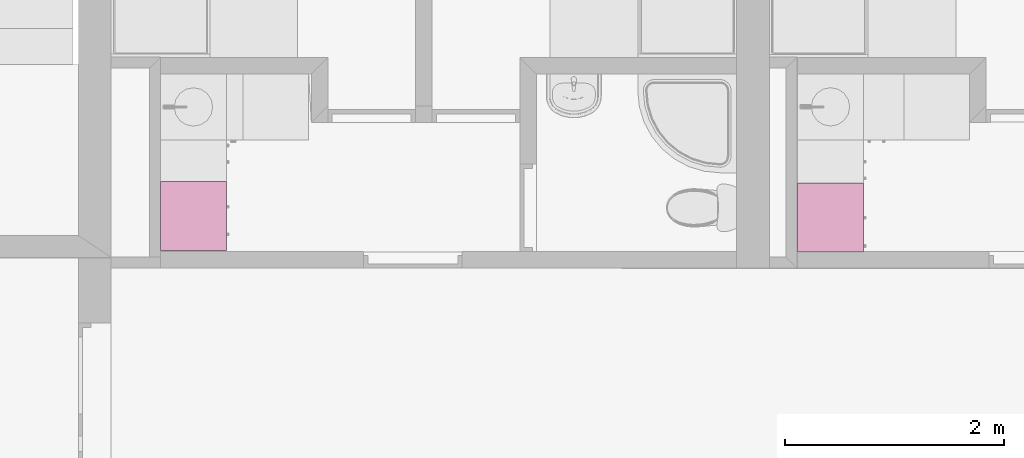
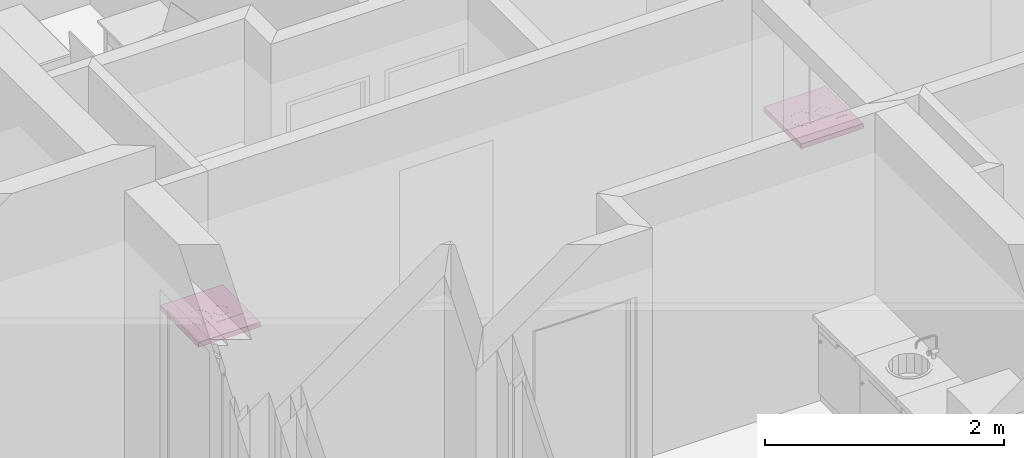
# One storey, part 166 of 172: 2 furnishings.
"""IFC2X3 building model written with IfcOpenShell, lengths in millimetres."""

from ifc_helpers import new_model, entity, si_unit, converted_unit, money_unit, direction, frame, origin_with_axes, place, context, subcontext, project, spatial, faceted_brep, source, transform, mapped, material, material_list, type_object, element, save


model = new_model("IFC2X3")

# Units and contexts
model_context = context("Model", 3, precision=1e-05, world=origin_with_axes(), true_north=direction((0.0, 1.0)))
body_context = subcontext(model_context, "Body", "Model", "MODEL_VIEW")
ifc_project = project(units=[si_unit("LENGTHUNIT", "METRE", prefix="MILLI"), si_unit("AREAUNIT", "SQUARE_METRE"), si_unit("VOLUMEUNIT", "CUBIC_METRE"), converted_unit("PLANEANGLEUNIT", "DEGREE", entity("IfcPlaneAngleMeasure", 0.0174532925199), si_unit("PLANEANGLEUNIT", "RADIAN"), dimensions=[0, 0, 0, 0, 0, 0, 0]), si_unit("SOLIDANGLEUNIT", "STERADIAN"), money_unit("USD"), converted_unit("TIMEUNIT", "Year", entity("IfcTimeMeasure", 31556926.0), si_unit("TIMEUNIT", "SECOND"), dimensions=[0, 0, 0, 0, 0, 0, 0]), si_unit("MASSUNIT", "GRAM"), si_unit("THERMODYNAMICTEMPERATUREUNIT", "DEGREE_CELSIUS"), si_unit("LUMINOUSINTENSITYUNIT", "LUMEN")], contexts=[model_context])

# Site, building, storey
site_placement = place(None, origin_with_axes())
site = spatial("IfcSite", under=ifc_project, at=site_placement, Name="Site", CompositionType="ELEMENT")
building_placement = place(site_placement, origin_with_axes())
building = spatial("IfcBuilding", under=site, at=building_placement, Name="Building", CompositionType="ELEMENT")
storey_placement = place(building_placement, frame((0.0, 0.0, 3200.0), z_axis=(0.0, 0.0, 1.0), x_axis=(1.0, 0.0, 0.0)))
storey = spatial("IfcBuildingStorey", under=building, at=storey_placement, Name="3KORRUS", CompositionType="ELEMENT", Elevation=3200.0)

# Furnishings
ifc_material = material(Name="Background")
ifc_material_list = material_list([ifc_material])
furnishing_element_type = type_object("IfcFurnishingElementType", Name="Built-in Cooktops 19")
shared_shape = source(origin_with_axes(), body_context, "Body", "Brep", [
    faceted_brep([(0.0, 0.0, 850.0), (0.0, 0.0, 900.0), (-629.977, 0.0, 900.0), (-629.977, 0.0, 850.0), (0.0, 600.0, 850.0), (0.0, 600.0, 900.0), (-629.977, 600.0, 900.0), (-629.977, 600.0, 850.0)], [[[0, 1, 2, 3]], [[4, 5, 1, 0]], [[1, 5, 6, 2]], [[3, 2, 6, 7]], [[0, 3, 7, 4]], [[7, 6, 5, 4]]]),
    faceted_brep([(-179.989, 55.0, 900.0), (-449.989, 55.0, 900.0), (-449.989, 545.0, 900.0), (-179.989, 545.0, 900.0), (-179.989, 55.0, 900.8), (-449.989, 55.0, 900.8), (-449.989, 545.0, 900.8), (-179.989, 545.0, 900.8), (-186.794, 61.806, 902.0), (-443.183, 61.806, 902.0), (-443.183, 538.194, 902.0), (-186.794, 538.194, 902.0)], [[[0, 1, 2, 3]], [[0, 4, 5, 1]], [[1, 5, 6, 2]], [[2, 6, 7, 3]], [[3, 7, 4, 0]], [[4, 8, 9, 5]], [[5, 9, 10, 6]], [[6, 10, 11, 7]], [[7, 11, 8, 4]], [[10, 9, 8, 11]]]),
    faceted_brep([(-209.989, 409.27, 902.0), (-209.989, 409.27, 903.0), (-224.056, 356.77, 903.0), (-224.056, 356.77, 902.0), (-224.056, 461.77, 902.0), (-224.056, 461.77, 903.0), (-262.489, 500.203, 903.0), (-314.989, 514.27, 903.0), (-367.489, 500.203, 903.0), (-405.921, 461.77, 903.0), (-419.989, 409.27, 903.0), (-405.921, 356.77, 903.0), (-367.489, 318.337, 903.0), (-314.989, 304.27, 903.0), (-262.489, 318.337, 903.0), (-214.989, 409.27, 903.0), (-228.386, 359.27, 903.0), (-264.989, 322.667, 903.0), (-314.989, 309.27, 903.0), (-364.989, 322.667, 903.0), (-401.591, 359.27, 903.0), (-414.989, 409.27, 903.0), (-401.591, 459.27, 903.0), (-364.989, 495.873, 903.0), (-314.989, 509.27, 903.0), (-264.989, 495.873, 903.0), (-228.386, 459.27, 903.0), (-262.489, 318.337, 902.0), (-314.989, 304.27, 902.0), (-367.489, 318.337, 902.0), (-405.921, 356.77, 902.0), (-419.989, 409.27, 902.0), (-405.921, 461.77, 902.0), (-367.489, 500.203, 902.0), (-314.989, 514.27, 902.0), (-262.489, 500.203, 902.0), (-214.989, 409.27, 902.0), (-228.386, 459.27, 902.0), (-264.989, 495.873, 902.0), (-314.989, 509.27, 902.0), (-364.989, 495.873, 902.0), (-401.591, 459.27, 902.0), (-414.989, 409.27, 902.0), (-401.591, 359.27, 902.0), (-364.989, 322.667, 902.0), (-314.989, 309.27, 902.0), (-264.989, 322.667, 902.0), (-228.386, 359.27, 902.0)], [[[0, 1, 2, 3]], [[4, 5, 1, 0]], [[1, 5, 6, 7, 8, 9, 10, 11, 12, 13, 14, 2], [15, 16, 17, 18, 19, 20, 21, 22, 23, 24, 25, 26]], [[3, 2, 14, 27]], [[0, 3, 27, 28, 29, 30, 31, 32, 33, 34, 35, 4], [36, 37, 38, 39, 40, 41, 42, 43, 44, 45, 46, 47]], [[35, 6, 5, 4]], [[34, 7, 6, 35]], [[33, 8, 7, 34]], [[32, 9, 8, 33]], [[31, 10, 9, 32]], [[30, 11, 10, 31]], [[29, 12, 11, 30]], [[28, 13, 12, 29]], [[27, 14, 13, 28]], [[47, 16, 15, 36]], [[46, 17, 16, 47]], [[45, 18, 17, 46]], [[44, 19, 18, 45]], [[43, 20, 19, 44]], [[42, 21, 20, 43]], [[41, 22, 21, 42]], [[40, 23, 22, 41]], [[39, 24, 23, 40]], [[38, 25, 24, 39]], [[37, 26, 25, 38]], [[36, 15, 26, 37]]]),
    faceted_brep([(-242.489, 200.53, 902.0), (-242.489, 200.53, 903.0), (-252.202, 164.28, 903.0), (-252.202, 164.28, 902.0), (-252.202, 236.78, 902.0), (-252.202, 236.78, 903.0), (-278.739, 263.317, 903.0), (-314.989, 273.03, 903.0), (-351.239, 263.317, 903.0), (-377.775, 236.78, 903.0), (-387.489, 200.53, 903.0), (-377.775, 164.28, 903.0), (-351.239, 137.743, 903.0), (-314.989, 128.03, 903.0), (-278.739, 137.743, 903.0), (-247.489, 200.53, 903.0), (-256.532, 166.78, 903.0), (-281.239, 142.073, 903.0), (-314.989, 133.03, 903.0), (-348.739, 142.073, 903.0), (-373.445, 166.78, 903.0), (-382.489, 200.53, 903.0), (-373.445, 234.28, 903.0), (-348.739, 258.987, 903.0), (-314.989, 268.03, 903.0), (-281.239, 258.987, 903.0), (-256.532, 234.28, 903.0), (-278.739, 137.743, 902.0), (-314.989, 128.03, 902.0), (-351.239, 137.743, 902.0), (-377.775, 164.28, 902.0), (-387.489, 200.53, 902.0), (-377.775, 236.78, 902.0), (-351.239, 263.317, 902.0), (-314.989, 273.03, 902.0), (-278.739, 263.317, 902.0), (-247.489, 200.53, 902.0), (-256.532, 234.28, 902.0), (-281.239, 258.987, 902.0), (-314.989, 268.03, 902.0), (-348.739, 258.987, 902.0), (-373.445, 234.28, 902.0), (-382.489, 200.53, 902.0), (-373.445, 166.78, 902.0), (-348.739, 142.073, 902.0), (-314.989, 133.03, 902.0), (-281.239, 142.073, 902.0), (-256.532, 166.78, 902.0)], [[[0, 1, 2, 3]], [[4, 5, 1, 0]], [[1, 5, 6, 7, 8, 9, 10, 11, 12, 13, 14, 2], [15, 16, 17, 18, 19, 20, 21, 22, 23, 24, 25, 26]], [[3, 2, 14, 27]], [[0, 3, 27, 28, 29, 30, 31, 32, 33, 34, 35, 4], [36, 37, 38, 39, 40, 41, 42, 43, 44, 45, 46, 47]], [[35, 6, 5, 4]], [[34, 7, 6, 35]], [[33, 8, 7, 34]], [[32, 9, 8, 33]], [[31, 10, 9, 32]], [[30, 11, 10, 31]], [[29, 12, 11, 30]], [[28, 13, 12, 29]], [[27, 14, 13, 28]], [[47, 16, 15, 36]], [[46, 17, 16, 47]], [[45, 18, 17, 46]], [[44, 19, 18, 45]], [[43, 20, 19, 44]], [[42, 21, 20, 43]], [[41, 22, 21, 42]], [[40, 23, 22, 41]], [[39, 24, 23, 40]], [[38, 25, 24, 39]], [[37, 26, 25, 38]], [[36, 15, 26, 37]]]),
])
for number, where, z_axis, x_axis, name in (
    (1, (866.697734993, -10360.6314107, 0.0), (0.0, 0.0, 1.0), (0.0, 1.0, 0.0), "FU - 007"),
    (2, (-4940.30226501, -10346.1451203, 0.0), (0.0, 0.0, 1.0), (0.0, 1.0, 0.0), "FU - 007"),
):
    element("IfcFurnishingElement", number, at=place(storey_placement, frame(where, z_axis=z_axis, x_axis=x_axis)), inside=storey, type_object=furnishing_element_type, material=ifc_material_list, Name=name, context=body_context, shape_type="MappedRepresentation", body=[
        mapped(shared_shape, transform((0.0, 0.0, 0.0))),
    ])

save(model, "model.ifc")
